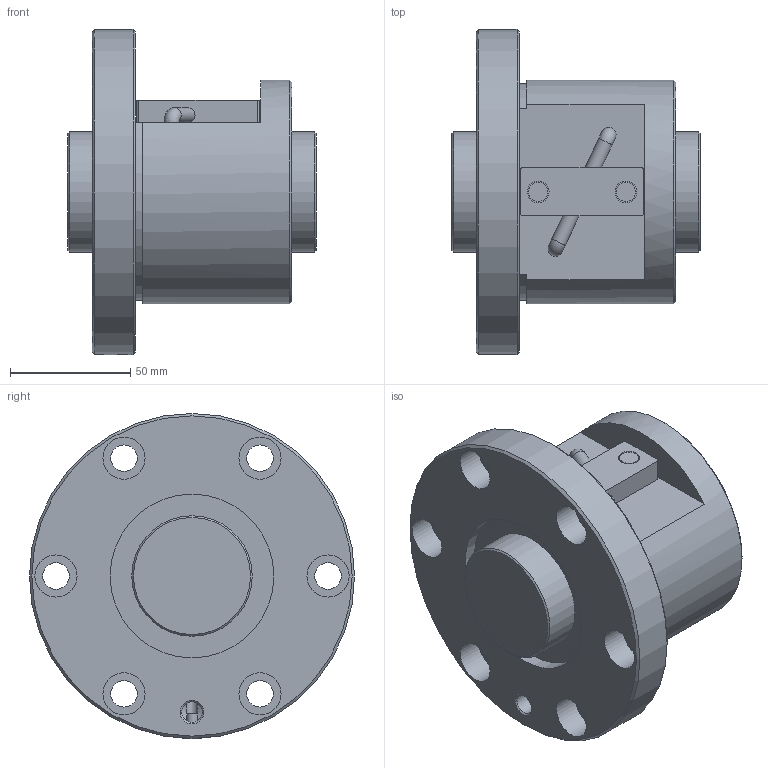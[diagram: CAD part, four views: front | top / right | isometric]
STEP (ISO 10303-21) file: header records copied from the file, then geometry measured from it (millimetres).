
FILE_DESCRIPTION(/* description */ ('STEP AP203'),/* implementation_level */ '2;1');
FILE_NAME(/* name */ 'BNF5010V-3.5RRG1+103LC0_000_rev',/* time_stamp */ '2024-08-06T09:04:56+02:00',/* author */ ('License CC BY-ND 4.0'),/* organization */ ('CADENAS'),/* preprocessor_version */ 'ST-DEVELOPER v19.3',/* originating_system */ 'PARTsolutions',/* authorisation */ ' ');
FILE_SCHEMA (('CONFIG_CONTROL_DESIGN'));
Length unit declared in the file: millimetre
Products named in the file (3): BNF5010V-3.5RRG1+103LC0_000_rev; BNF 5010-3.5RR000 Shaft; BNF 5010-3.5RR Nut
Assembly tree (2 placements, depth 2):
  BNF5010V-3.5RRG1+103LC0_000_rev
    BNF 5010-3.5RR000 Shaft
    BNF 5010-3.5RR Nut
Bounding box: 103 x 135 x 135 mm (x, y, z)
Volume: 661402.4 mm3; surface area: 93136.1 mm2
Topology: 2 solids, 2 shells, 70 faces, 152 edges, 99 vertices
Faces by surface type: cylinder 33, plane 27, cone 8, torus 2
Full cylindrical faces by diameter (mm): 4.5 x2, 6.198 x2, 8 x2, 8.566 x1, 9 x2, 11 x6, 17.5 x6, 50 x2, 68 x2, 93 x1, 135 x1
Entity records: 1809 total; most frequent: CARTESIAN_POINT 319, DIRECTION 316, ORIENTED_EDGE 210, AXIS2_PLACEMENT_3D 146, EDGE_LOOP 140, FACE_BOUND 140, EDGE_CURVE 105, VERTEX_POINT 89
